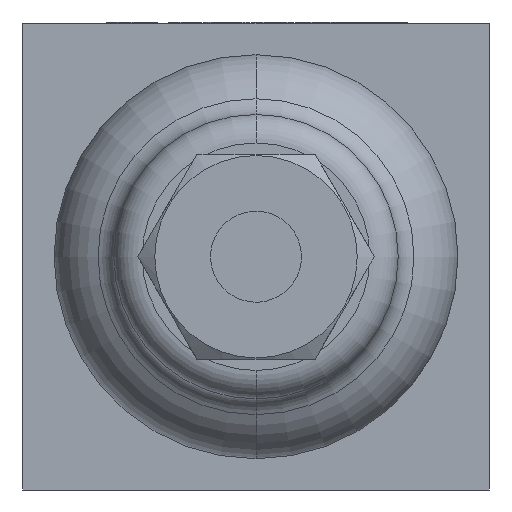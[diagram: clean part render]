
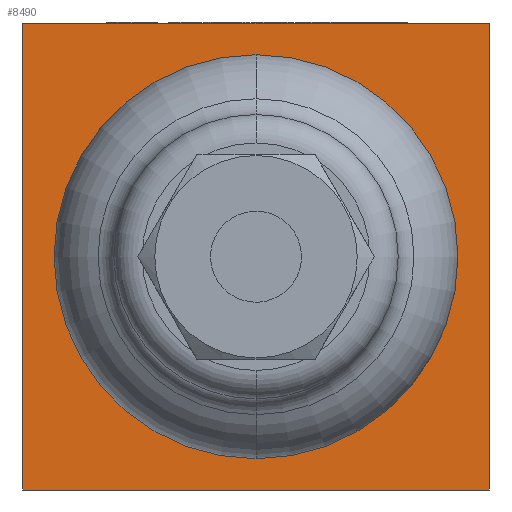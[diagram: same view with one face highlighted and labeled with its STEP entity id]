
A CAD part, front view. The second image highlights one B-rep face of the part: STEP entity #8490.
In plain terms, the highlighted planar face has unit normal (0, -1, 0).
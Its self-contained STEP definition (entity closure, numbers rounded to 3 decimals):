
#696 = CARTESIAN_POINT ( 'NONE',  ( -20.5, -20.5, -20.5 ) ) ;
#1330 = DIRECTION ( 'NONE',  ( 0., 0., -1. ) ) ;
#2158 = DIRECTION ( 'NONE',  ( 1., 0., 0. ) ) ;
#2699 = EDGE_CURVE ( 'NONE', #5339, #4482, #16907, .T. ) ;
#3106 = VECTOR ( 'NONE', #2158, 1000. ) ;
#4482 = VERTEX_POINT ( 'NONE', #15878 ) ;
#4581 = CARTESIAN_POINT ( 'NONE',  ( -20.5, -20.5, 20.5 ) ) ;
#4738 = VECTOR ( 'NONE', #1330, 1000. ) ;
#5164 = LINE ( 'NONE', #9518, #4738 ) ;
#5235 = ORIENTED_EDGE ( 'NONE', *, *, #2699, .F. ) ;
#5339 = VERTEX_POINT ( 'NONE', #13595 ) ;
#5894 = DIRECTION ( 'NONE',  ( 0., 0., -1. ) ) ;
#6202 = VERTEX_POINT ( 'NONE', #7236 ) ;
#7236 = CARTESIAN_POINT ( 'NONE',  ( 20.5, -20.5, -20.5 ) ) ;
#8429 = ORIENTED_EDGE ( 'NONE', *, *, #14797, .F. ) ;
#8490 = ADVANCED_FACE ( 'NONE', ( #10629 ), #8985, .F. ) ;
#8587 = VECTOR ( 'NONE', #14141, 1000. ) ;
#8985 = PLANE ( 'NONE',  #9279 ) ;
#9279 = AXIS2_PLACEMENT_3D ( 'NONE', #10153, #12649, #10093 ) ;
#9518 = CARTESIAN_POINT ( 'NONE',  ( 20.5, -20.5, 20.5 ) ) ;
#9903 = CARTESIAN_POINT ( 'NONE',  ( -20.5, -20.5, -20.5 ) ) ;
#10093 = DIRECTION ( 'NONE',  ( 0., 0., 1. ) ) ;
#10153 = CARTESIAN_POINT ( 'NONE',  ( -20.5, -20.5, 20.5 ) ) ;
#10629 = FACE_OUTER_BOUND ( 'NONE', #10972, .T. ) ;
#10972 = EDGE_LOOP ( 'NONE', ( #16346, #8429, #5235, #13609 ) ) ;
#11126 = VERTEX_POINT ( 'NONE', #9903 ) ;
#11790 = VECTOR ( 'NONE', #5894, 1000. ) ;
#11987 = EDGE_CURVE ( 'NONE', #11126, #6202, #16120, .T. ) ;
#12649 = DIRECTION ( 'NONE',  ( 0., 1., 0. ) ) ;
#12782 = CARTESIAN_POINT ( 'NONE',  ( -20.5, -20.5, 20.5 ) ) ;
#13595 = CARTESIAN_POINT ( 'NONE',  ( -20.5, -20.5, 20.5 ) ) ;
#13609 = ORIENTED_EDGE ( 'NONE', *, *, #15128, .T. ) ;
#14141 = DIRECTION ( 'NONE',  ( 1., 0., 0. ) ) ;
#14797 = EDGE_CURVE ( 'NONE', #4482, #6202, #5164, .T. ) ;
#15128 = EDGE_CURVE ( 'NONE', #5339, #11126, #15844, .T. ) ;
#15844 = LINE ( 'NONE', #12782, #11790 ) ;
#15878 = CARTESIAN_POINT ( 'NONE',  ( 20.5, -20.5, 20.5 ) ) ;
#16120 = LINE ( 'NONE', #696, #3106 ) ;
#16346 = ORIENTED_EDGE ( 'NONE', *, *, #11987, .T. ) ;
#16907 = LINE ( 'NONE', #4581, #8587 ) ;
